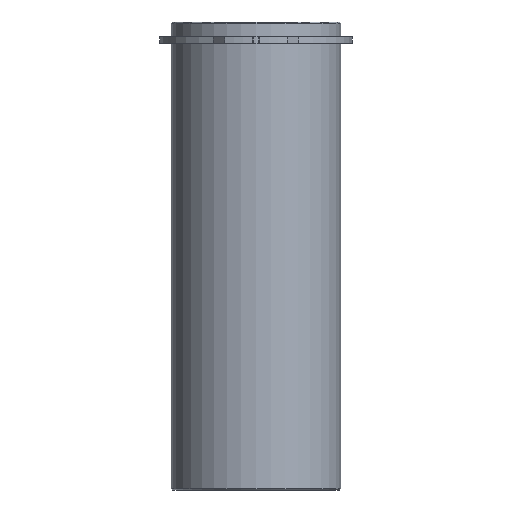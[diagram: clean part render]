
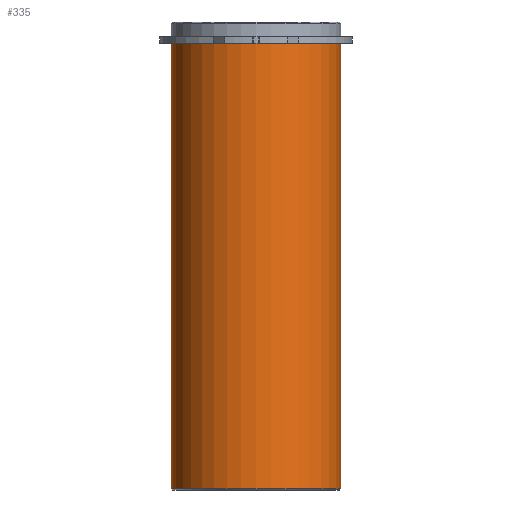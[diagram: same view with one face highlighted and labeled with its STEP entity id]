
A CAD part, front view. The second image highlights one B-rep face of the part: STEP entity #335.
In plain terms, the highlighted cylindrical face has radius 22.625 mm (diameter 45.25 mm), a partial arc.
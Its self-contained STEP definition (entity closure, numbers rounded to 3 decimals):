
#294=CARTESIAN_POINT('',(0.0,0.,-59.5));
#295=DIRECTION('',(0.0,0.,1.0));
#296=DIRECTION('',(1.0,0.0,0.0));
#297=AXIS2_PLACEMENT_3D('',#294,#295,#296);
#298=CYLINDRICAL_SURFACE('',#297,22.625);
#299=CARTESIAN_POINT('',(22.625,0.0,0.0));
#300=VERTEX_POINT('',#299);
#301=CARTESIAN_POINT('',(22.625,0.,-119.0));
#302=VERTEX_POINT('',#301);
#303=CARTESIAN_POINT('',(22.625,0.0,0.0));
#304=DIRECTION('',(0.0,0.0,-1.0));
#305=VECTOR('',#304,119.0);
#306=LINE('',#303,#305);
#307=EDGE_CURVE('',#300,#302,#306,.T.);
#308=ORIENTED_EDGE('',*,*,#307,.F.);
#309=CARTESIAN_POINT('',(-22.625,0.,0.0));
#310=VERTEX_POINT('',#309);
#311=CARTESIAN_POINT('',(0.0,0.0,0.0));
#312=DIRECTION('',(0.0,0.0,1.0));
#313=DIRECTION('',(1.0,0.0,0.0));
#314=AXIS2_PLACEMENT_3D('',#311,#312,#313);
#315=CIRCLE('',#314,22.625);
#316=EDGE_CURVE('',#310,#300,#315,.T.);
#317=ORIENTED_EDGE('',*,*,#316,.F.);
#318=CARTESIAN_POINT('',(-22.625,0.,-119.0));
#319=VERTEX_POINT('',#318);
#320=CARTESIAN_POINT('',(-22.625,0.,0.0));
#321=DIRECTION('',(0.0,0.0,-1.0));
#322=VECTOR('',#321,119.0);
#323=LINE('',#320,#322);
#324=EDGE_CURVE('',#310,#319,#323,.T.);
#325=ORIENTED_EDGE('',*,*,#324,.T.);
#326=CARTESIAN_POINT('',(0.0,0.,-119.0));
#327=DIRECTION('',(0.0,0.0,1.0));
#328=DIRECTION('',(1.0,0.0,0.0));
#329=AXIS2_PLACEMENT_3D('',#326,#327,#328);
#330=CIRCLE('',#329,22.625);
#331=EDGE_CURVE('',#319,#302,#330,.T.);
#332=ORIENTED_EDGE('',*,*,#331,.T.);
#333=EDGE_LOOP('',(#308,#317,#325,#332));
#334=FACE_OUTER_BOUND('',#333,.T.);
#335=ADVANCED_FACE('',(#334),#298,.T.);
